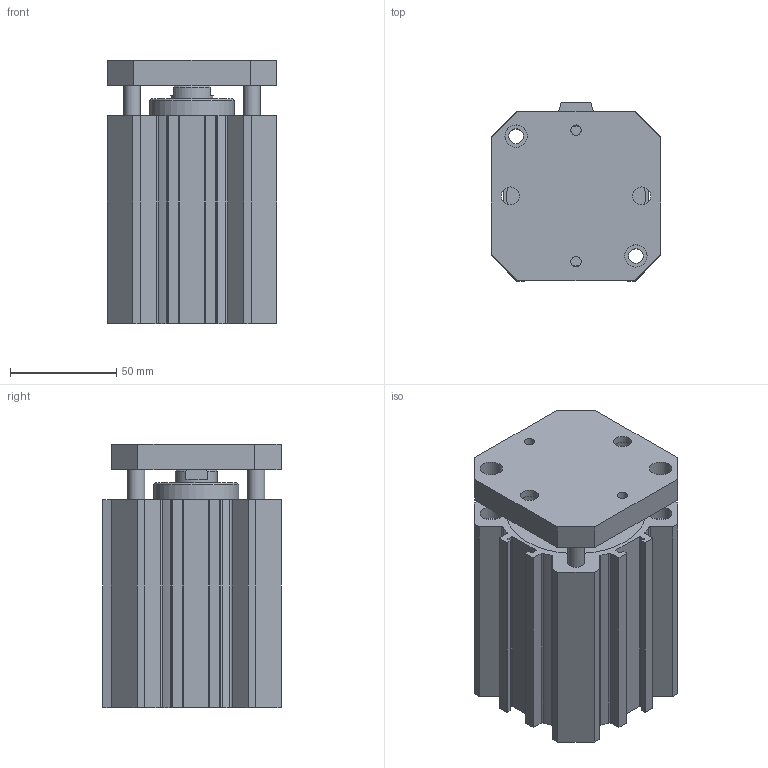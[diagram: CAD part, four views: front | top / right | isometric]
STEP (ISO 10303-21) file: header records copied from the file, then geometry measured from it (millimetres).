
FILE_DESCRIPTION(/* description */ ('TUBO PROFILATO COMPATTI Ø40'),/* implementation_level */ '2;1');
FILE_NAME(/* name */ 'I:\Area Tecnica\Disegni\VARIE-3D\Componenti\1500\Ø63\15##_63_####_#\1501_63_0060_AR.stp',/* time_stamp */ '2016-08-24T13:52:49+02:00',/* author */ ('Maniean1'),/* organization */ ('Pneumax S.p.A.'),/* preprocessor_version */ 'ST-DEVELOPER v15.2',/* originating_system */ 'Autodesk Inventor 2014',/* authorisation */ '');
FILE_SCHEMA (('AUTOMOTIVE_DESIGN { 1 0 10303 214 3 1 1 }'));
Length unit declared in the file: millimetre
Products named in the file (3): C_1501_63_0060_AR; S_1501_63_0060_AR; 1501_63_0060_AR
Bounding box: 80 x 84 x 124 mm (x, y, z)
Volume: 418303.5 mm3; surface area: 120938.4 mm2
Topology: 2 solids, 2 shells, 185 faces, 481 edges, 322 vertices
Faces by surface type: plane 94, cylinder 86, cone 5
Full cylindrical faces by diameter (mm): 4.917 x2, 7 x4, 8 x4, 8.5 x2, 8.566 x2, 10.5 x8, 13.5 x2, 20 x2, 40 x2, 63 x2, 65.5 x2
Entity records: 5739 total; most frequent: DIRECTION 994, CARTESIAN_POINT 950, ORIENTED_EDGE 876, EDGE_CURVE 438, AXIS2_PLACEMENT_3D 370, VERTEX_POINT 314, EDGE_LOOP 262, LINE 254
